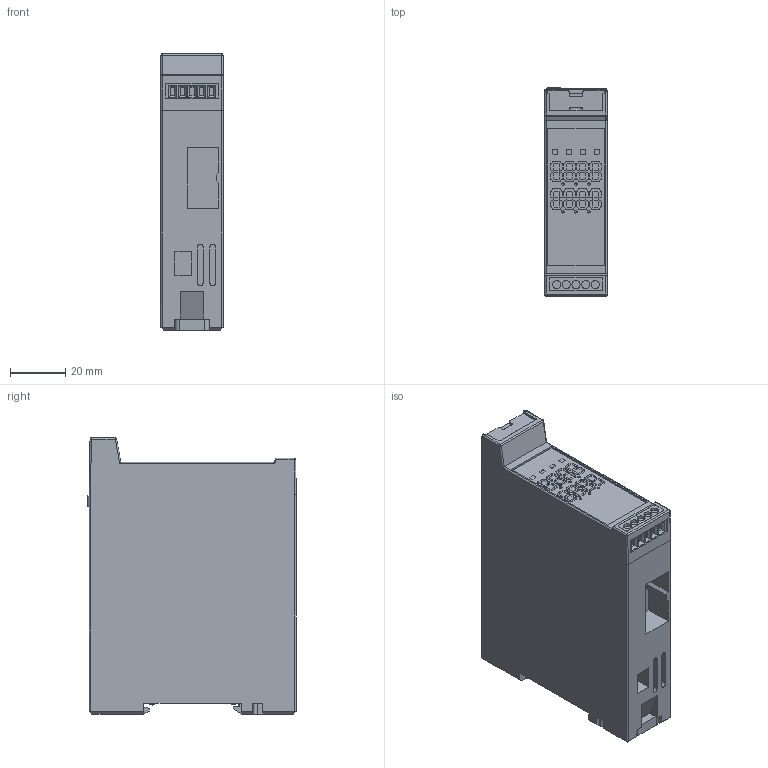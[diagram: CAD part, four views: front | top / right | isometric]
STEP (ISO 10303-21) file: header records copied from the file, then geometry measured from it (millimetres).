
FILE_DESCRIPTION (( 'STEP AP203' ), '1' );
FILE_NAME ('DCL.STEP', '2017-05-11T02:21:28', ( 'kawahara' ), ( 'Hewlett-Packard Company' ), 'SwSTEP 2.0', 'SolidWorks 2013', '' );
FILE_SCHEMA (( 'CONFIG_CONTROL_DESIGN' ));
Length unit declared in the file: millimetre
Products named in the file (4): 働乕僗^AS_DCL_HP_嶌嬈梡_170509; 儘僢僋^AS_DCL_HP_嶌嬈梡_170509; 端子カバー^AS_DCL_HP_作業用_170509; DCL
Assembly tree (3 placements, depth 2):
  DCL
    働乕僗^AS_DCL_HP_嶌嬈梡_170509
    儘僢僋^AS_DCL_HP_嶌嬈梡_170509
    端子カバー^AS_DCL_HP_作業用_170509
Bounding box: 22.5 x 75.5 x 100 mm (x, y, z)
Volume: 146180 mm3; surface area: 25881 mm2
Topology: 3 solids, 3 shells, 972 faces, 2497 edges, 1641 vertices
Faces by surface type: plane 657, cylinder 300, bspline 9, sphere 6
Entity records: 29785 total; most frequent: CARTESIAN_POINT 5302, ORIENTED_EDGE 4994, DIRECTION 4965, EDGE_CURVE 2497, VECTOR 1885, LINE 1885, VERTEX_POINT 1641, AXIS2_PLACEMENT_3D 1540
